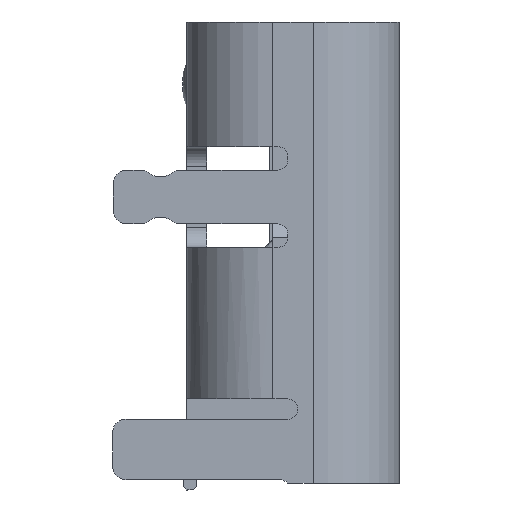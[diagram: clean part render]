
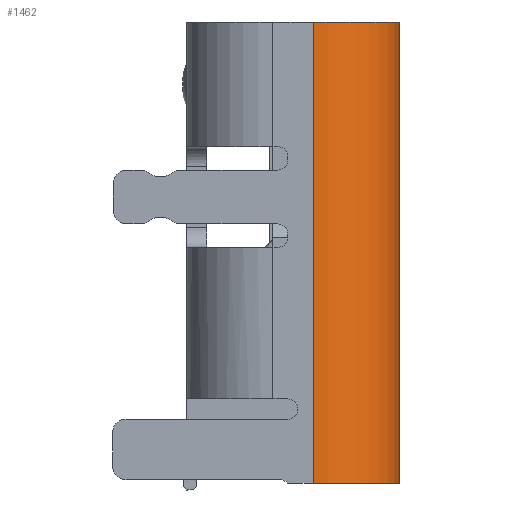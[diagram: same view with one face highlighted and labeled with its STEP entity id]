
A CAD part, left-side view. The second image highlights one B-rep face of the part: STEP entity #1462.
In plain terms, the highlighted cylindrical face has radius 1.28 mm (diameter 2.56 mm), a partial arc.
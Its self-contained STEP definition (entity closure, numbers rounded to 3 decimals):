
#109 = EDGE_CURVE ( 'NONE', #7958, #1676, #9967, .T. ) ;
#390 = B_SPLINE_CURVE_WITH_KNOTS ( 'NONE', 3,
 ( #11942, #11937, #11923, #11920 ),
 .UNSPECIFIED., .F., .F.,
 ( 4, 4 ),
 ( 0., 1. ),
 .UNSPECIFIED. ) ;
#397 = CARTESIAN_POINT ( 'NONE',  ( -3.19, 6.85, -3.16 ) ) ;
#531 = CARTESIAN_POINT ( 'NONE',  ( -3.19, 0., -3.16 ) ) ;
#1462 = ADVANCED_FACE ( 'NONE', ( #8060 ), #7759, .T. ) ;
#1613 = VERTEX_POINT ( 'NONE', #397 ) ;
#1676 = VERTEX_POINT ( 'NONE', #19108 ) ;
#3508 = CARTESIAN_POINT ( 'NONE',  ( -3.19, 10.583, -1.88 ) ) ;
#3535 = AXIS2_PLACEMENT_3D ( 'NONE', #7109, #6261, #15866 ) ;
#3997 = DIRECTION ( 'NONE',  ( -1., 0., 0. ) ) ;
#4012 = DIRECTION ( 'NONE',  ( 0., -1., 0. ) ) ;
#5066 = CARTESIAN_POINT ( 'NONE',  ( -4.47, 6.85, -1.88 ) ) ;
#5221 = EDGE_CURVE ( 'NONE', #1676, #9510, #9162, .T. ) ;
#5721 = EDGE_LOOP ( 'NONE', ( #13708, #12966, #12816, #14271 ) ) ;
#6261 = DIRECTION ( 'NONE',  ( 0., 1., 0. ) ) ;
#7109 = CARTESIAN_POINT ( 'NONE',  ( -3.19, 6.85, -1.88 ) ) ;
#7759 = CYLINDRICAL_SURFACE ( 'NONE', #19832, 1.28 ) ;
#7958 = VERTEX_POINT ( 'NONE', #5066 ) ;
#8060 = FACE_OUTER_BOUND ( 'NONE', #5721, .T. ) ;
#8370 = CIRCLE ( 'NONE', #3535, 1.28 ) ;
#9162 = CIRCLE ( 'NONE', #15885, 1.28 ) ;
#9510 = VERTEX_POINT ( 'NONE', #531 ) ;
#9967 = B_SPLINE_CURVE_WITH_KNOTS ( 'NONE', 3,
 ( #12306, #11360, #11079, #11471 ),
 .UNSPECIFIED., .F., .F.,
 ( 4, 4 ),
 ( 0., 1. ),
 .UNSPECIFIED. ) ;
#11079 = CARTESIAN_POINT ( 'NONE',  ( -4.47, 2.283, -1.88 ) ) ;
#11360 = CARTESIAN_POINT ( 'NONE',  ( -4.47, 4.567, -1.88 ) ) ;
#11471 = CARTESIAN_POINT ( 'NONE',  ( -4.47, 0., -1.88 ) ) ;
#11920 = CARTESIAN_POINT ( 'NONE',  ( -3.19, 6.85, -3.16 ) ) ;
#11923 = CARTESIAN_POINT ( 'NONE',  ( -3.19, 4.567, -3.16 ) ) ;
#11937 = CARTESIAN_POINT ( 'NONE',  ( -3.19, 2.283, -3.16 ) ) ;
#11942 = CARTESIAN_POINT ( 'NONE',  ( -3.19, 0., -3.16 ) ) ;
#12306 = CARTESIAN_POINT ( 'NONE',  ( -4.47, 6.85, -1.88 ) ) ;
#12816 = ORIENTED_EDGE ( 'NONE', *, *, #5221, .F. ) ;
#12966 = ORIENTED_EDGE ( 'NONE', *, *, #16680, .F. ) ;
#13708 = ORIENTED_EDGE ( 'NONE', *, *, #13719, .F. ) ;
#13719 = EDGE_CURVE ( 'NONE', #1613, #7958, #8370, .T. ) ;
#14271 = ORIENTED_EDGE ( 'NONE', *, *, #109, .F. ) ;
#15866 = DIRECTION ( 'NONE',  ( -1., 0., 0. ) ) ;
#15885 = AXIS2_PLACEMENT_3D ( 'NONE', #18922, #18906, #18802 ) ;
#16680 = EDGE_CURVE ( 'NONE', #9510, #1613, #390, .T. ) ;
#18802 = DIRECTION ( 'NONE',  ( -1., 0., 0. ) ) ;
#18906 = DIRECTION ( 'NONE',  ( 0., -1., 0. ) ) ;
#18922 = CARTESIAN_POINT ( 'NONE',  ( -3.19, 0., -1.88 ) ) ;
#19108 = CARTESIAN_POINT ( 'NONE',  ( -4.47, 0., -1.88 ) ) ;
#19832 = AXIS2_PLACEMENT_3D ( 'NONE', #3508, #4012, #3997 ) ;
